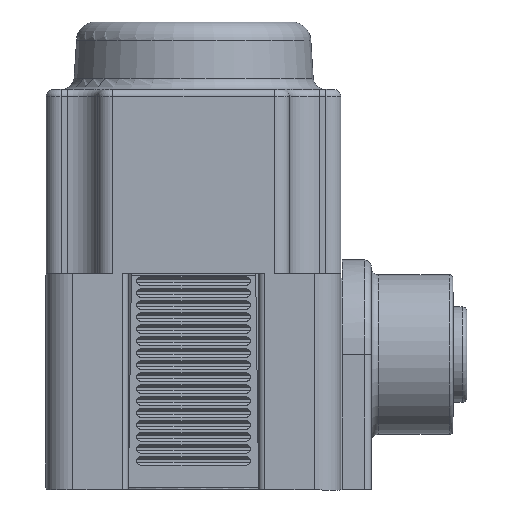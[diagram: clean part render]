
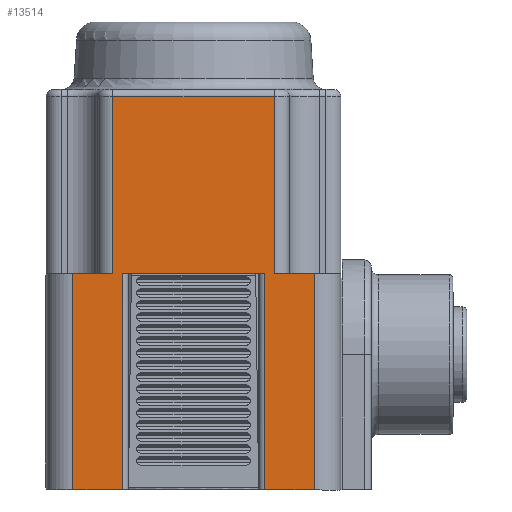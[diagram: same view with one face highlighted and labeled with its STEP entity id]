
A CAD part, left-side view. The second image highlights one B-rep face of the part: STEP entity #13514.
In plain terms, the highlighted planar face has unit normal (-1, 0, 0).
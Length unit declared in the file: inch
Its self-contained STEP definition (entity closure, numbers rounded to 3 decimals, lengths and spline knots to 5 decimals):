
#1568=LINE('',#23086,#2477);
#1581=LINE('',#23156,#2490);
#1704=LINE('',#24734,#2613);
#1722=LINE('',#24794,#2631);
#1723=LINE('',#24798,#2632);
#1726=LINE('',#24817,#2635);
#1739=LINE('',#24886,#2648);
#1740=LINE('',#24890,#2649);
#1741=LINE('',#24891,#2650);
#1742=LINE('',#24893,#2651);
#1743=LINE('',#24895,#2652);
#1744=LINE('',#24896,#2653);
#2477=VECTOR('',#17999,0.3937);
#2490=VECTOR('',#18082,0.3937);
#2613=VECTOR('',#18407,0.3937);
#2631=VECTOR('',#18479,0.3937);
#2632=VECTOR('',#18484,0.3937);
#2635=VECTOR('',#18505,0.3937);
#2648=VECTOR('',#18596,0.3937);
#2649=VECTOR('',#18601,0.3937);
#2650=VECTOR('',#18602,0.3937);
#2651=VECTOR('',#18603,0.3937);
#2652=VECTOR('',#18604,0.3937);
#2653=VECTOR('',#18605,0.3937);
#3452=FACE_OUTER_BOUND('',#4262,.T.);
#4262=EDGE_LOOP('',(#11576,#11577,#11578,#11579,#11580,#11581,#11582,#11583,
#11584,#11585,#11586,#11587));
#5827=VERTEX_POINT('',#23078);
#5829=VERTEX_POINT('',#23084);
#5851=VERTEX_POINT('',#23154);
#5987=VERTEX_POINT('',#24731);
#5988=VERTEX_POINT('',#24733);
#6003=VERTEX_POINT('',#24793);
#6004=VERTEX_POINT('',#24797);
#6011=VERTEX_POINT('',#24815);
#6028=VERTEX_POINT('',#24885);
#6029=VERTEX_POINT('',#24889);
#6030=VERTEX_POINT('',#24892);
#6031=VERTEX_POINT('',#24894);
#7579=EDGE_CURVE('',#5829,#5827,#1568,.T.);
#7615=EDGE_CURVE('',#5851,#5829,#1581,.T.);
#7824=EDGE_CURVE('',#5988,#5987,#1704,.T.);
#7854=EDGE_CURVE('',#6003,#5827,#1722,.T.);
#7856=EDGE_CURVE('',#6004,#6003,#1723,.T.);
#7866=EDGE_CURVE('',#5851,#6011,#1726,.T.);
#7900=EDGE_CURVE('',#6028,#5988,#1739,.T.);
#7902=EDGE_CURVE('',#6029,#6011,#1740,.T.);
#7903=EDGE_CURVE('',#6028,#6029,#1741,.T.);
#7904=EDGE_CURVE('',#6030,#5987,#1742,.T.);
#7905=EDGE_CURVE('',#6030,#6031,#1743,.T.);
#7906=EDGE_CURVE('',#6031,#6004,#1744,.T.);
#11576=ORIENTED_EDGE('',*,*,#7579,.F.);
#11577=ORIENTED_EDGE('',*,*,#7615,.F.);
#11578=ORIENTED_EDGE('',*,*,#7866,.T.);
#11579=ORIENTED_EDGE('',*,*,#7902,.F.);
#11580=ORIENTED_EDGE('',*,*,#7903,.F.);
#11581=ORIENTED_EDGE('',*,*,#7900,.T.);
#11582=ORIENTED_EDGE('',*,*,#7824,.T.);
#11583=ORIENTED_EDGE('',*,*,#7904,.F.);
#11584=ORIENTED_EDGE('',*,*,#7905,.T.);
#11585=ORIENTED_EDGE('',*,*,#7906,.T.);
#11586=ORIENTED_EDGE('',*,*,#7856,.T.);
#11587=ORIENTED_EDGE('',*,*,#7854,.T.);
#12078=PLANE('',#14923);
#13514=ADVANCED_FACE('',(#3452),#12078,.T.);
#14923=AXIS2_PLACEMENT_3D('',#24888,#18599,#18600);
#17999=DIRECTION('',(0.,-1.,0.));
#18082=DIRECTION('',(0.,0.,1.));
#18407=DIRECTION('',(0.,-1.,0.));
#18479=DIRECTION('',(0.,0.,1.));
#18484=DIRECTION('',(0.,1.,0.));
#18505=DIRECTION('',(0.,1.,0.));
#18596=DIRECTION('',(0.,0.,1.));
#18599=DIRECTION('center_axis',(-1.,0.,0.));
#18600=DIRECTION('ref_axis',(0.,0.,1.));
#18601=DIRECTION('',(0.,0.,1.));
#18602=DIRECTION('',(0.,1.,0.));
#18603=DIRECTION('',(0.,0.,1.));
#18604=DIRECTION('',(0.,-1.,0.));
#18605=DIRECTION('',(0.,0.,1.));
#23078=CARTESIAN_POINT('',(1.03471,-0.78969,0.65855));
#23084=CARTESIAN_POINT('',(1.03471,-0.12169,0.65855));
#23086=CARTESIAN_POINT('',(1.03471,-0.12169,0.65855));
#23154=CARTESIAN_POINT('',(1.03471,-0.12169,-0.07345));
#23156=CARTESIAN_POINT('',(1.03471,-0.12169,-0.07345));
#24731=CARTESIAN_POINT('',(1.03471,-0.74969,-0.07345));
#24733=CARTESIAN_POINT('',(1.03471,-0.16169,-0.07345));
#24734=CARTESIAN_POINT('',(1.03471,-0.16169,-0.07345));
#24793=CARTESIAN_POINT('',(1.03471,-0.78969,-0.07345));
#24794=CARTESIAN_POINT('',(1.03471,-0.78969,-0.07345));
#24797=CARTESIAN_POINT('',(1.03471,-0.95469,-0.07345));
#24798=CARTESIAN_POINT('',(1.03471,-0.95469,-0.07345));
#24815=CARTESIAN_POINT('',(1.03471,0.04331,-0.07345));
#24817=CARTESIAN_POINT('',(1.03471,-0.12169,-0.07345));
#24885=CARTESIAN_POINT('',(1.03471,-0.16169,-0.96745));
#24886=CARTESIAN_POINT('',(1.03471,-0.16169,-0.96745));
#24888=CARTESIAN_POINT('Origin',(1.03471,-0.95509,-0.15445));
#24889=CARTESIAN_POINT('',(1.03471,0.04331,-0.96745));
#24890=CARTESIAN_POINT('',(1.03471,0.04331,-0.96745));
#24891=CARTESIAN_POINT('',(1.03471,-0.16169,-0.96745));
#24892=CARTESIAN_POINT('',(1.03471,-0.74969,-0.96745));
#24893=CARTESIAN_POINT('',(1.03471,-0.74969,-0.96745));
#24894=CARTESIAN_POINT('',(1.03471,-0.95469,-0.96745));
#24895=CARTESIAN_POINT('',(1.03471,-0.74969,-0.96745));
#24896=CARTESIAN_POINT('',(1.03471,-0.95469,-0.96745));
